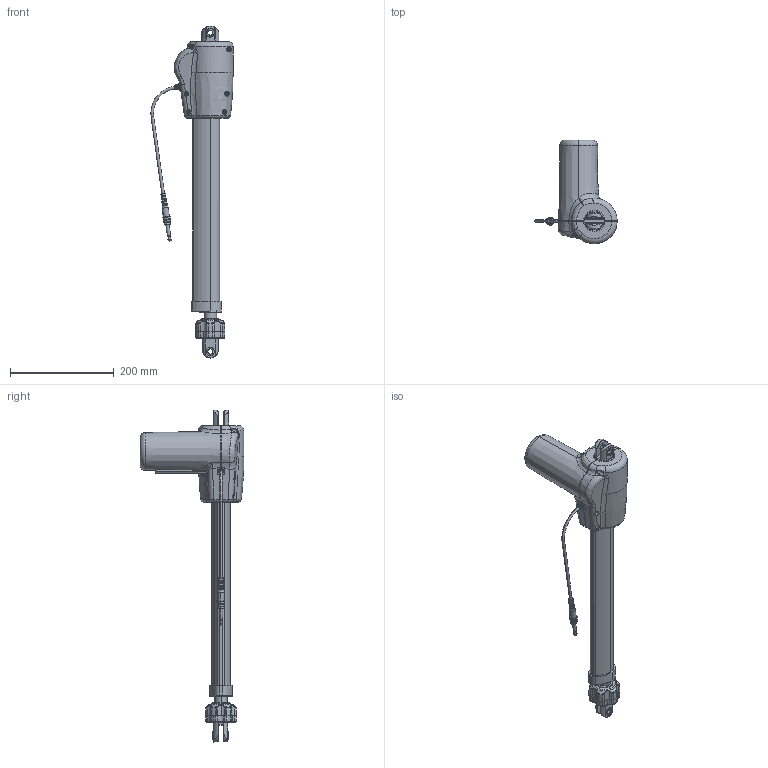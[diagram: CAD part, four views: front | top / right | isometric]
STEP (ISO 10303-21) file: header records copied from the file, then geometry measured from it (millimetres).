
FILE_DESCRIPTION((''),'2;1');
FILE_NAME('ASM0001_ASM','2019-10-30T',('USER'),(''),'PRO/ENGINEER BY PARAMETRIC TECHNOLOGY CORPORATION, 2016240','PRO/ENGINEER BY PARAMETRIC TECHNOLOGY CORPORATION, 2016240','');
FILE_SCHEMA(('CONFIG_CONTROL_DESIGN'));
Products named in the file (3): 1-1; 2-2; ASM0001_ASM
Assembly tree (2 placements, depth 2):
  ASM0001_ASM
    1-1
    2-2
Bounding box: 158.69 x 200 x 640.5 mm (x, y, z)
Surface area: 502064.3 mm2 (no closed solid volume)
Topology: 0 solids, 27 shells, 2535 faces, 6757 edges, 4376 vertices
Faces by surface type: cylinder 902, plane 890, torus 274, bspline 245, cone 144, sphere 80
Entity records: 103911 total; most frequent: CARTESIAN_POINT 41605, ORIENTED_EDGE 13494, DIRECTION 12833, EDGE_CURVE 6747, AXIS2_PLACEMENT_3D 5138, VERTEX_POINT 4372, CIRCLE 2844, EDGE_LOOP 2717
